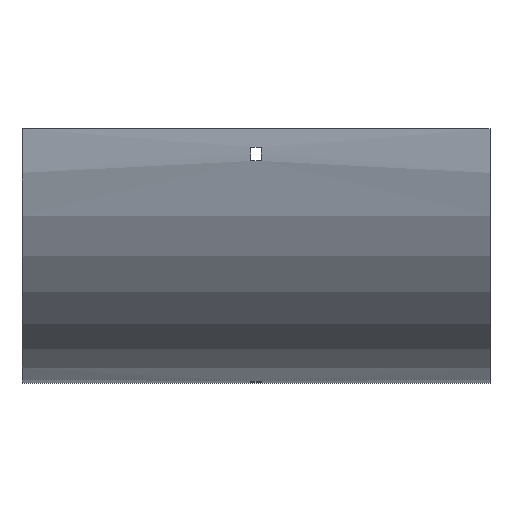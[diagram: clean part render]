
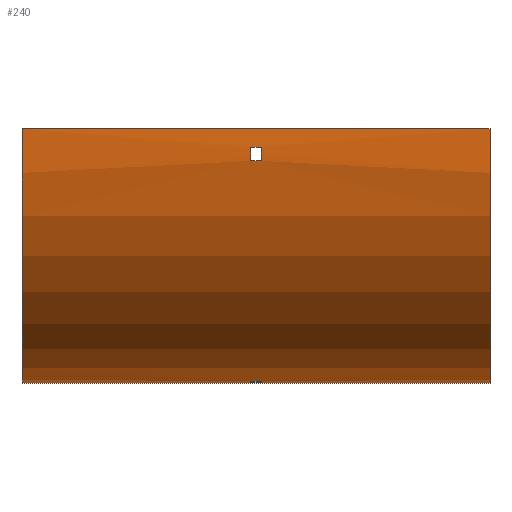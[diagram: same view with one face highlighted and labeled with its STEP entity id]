
A CAD part, front view. The second image highlights one B-rep face of the part: STEP entity #240.
In plain terms, the highlighted cylindrical face has radius 165.5 mm (diameter 331 mm), a partial arc.
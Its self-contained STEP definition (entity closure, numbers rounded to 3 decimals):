
#6 = VECTOR ( 'NONE', #224, 1000. ) ;
#32 = VECTOR ( 'NONE', #101, 1000. ) ;
#36 = DIRECTION ( 'NONE',  ( 0., 0., 1. ) ) ;
#38 = EDGE_CURVE ( 'NONE', #549, #705, #602, .T. ) ;
#44 = VERTEX_POINT ( 'NONE', #590 ) ;
#62 = DIRECTION ( 'NONE',  ( 1., 0., 0. ) ) ;
#67 = EDGE_CURVE ( 'NONE', #705, #956, #1143, .T. ) ;
#69 = ORIENTED_EDGE ( 'NONE', *, *, #83, .T. ) ;
#83 = EDGE_CURVE ( 'NONE', #956, #1008, #518, .T. ) ;
#91 = DIRECTION ( 'NONE',  ( 0., 0., -1. ) ) ;
#101 = DIRECTION ( 'NONE',  ( -1., 0., 0. ) ) ;
#105 = LINE ( 'NONE', #627, #233 ) ;
#109 = CYLINDRICAL_SURFACE ( 'NONE', #523, 165.5 ) ;
#110 = ORIENTED_EDGE ( 'NONE', *, *, #1065, .F. ) ;
#113 = EDGE_CURVE ( 'NONE', #734, #535, #1148, .T. ) ;
#130 = DIRECTION ( 'NONE',  ( -1., 0., 0. ) ) ;
#148 = CARTESIAN_POINT ( 'NONE',  ( -152., 100., 0. ) ) ;
#182 = DIRECTION ( 'NONE',  ( 0., 0., 1. ) ) ;
#185 = VERTEX_POINT ( 'NONE', #747 ) ;
#187 = VERTEX_POINT ( 'NONE', #1086 ) ;
#194 = VERTEX_POINT ( 'NONE', #1006 ) ;
#199 = CARTESIAN_POINT ( 'NONE',  ( 152., -64.162, -21. ) ) ;
#224 = DIRECTION ( 'NONE',  ( -1., 0., 0. ) ) ;
#228 = ORIENTED_EDGE ( 'NONE', *, *, #585, .F. ) ;
#232 = AXIS2_PLACEMENT_3D ( 'NONE', #923, #1010, #453 ) ;
#233 = VECTOR ( 'NONE', #291, 1000. ) ;
#240 = ADVANCED_FACE ( 'NONE', ( #473, #645, #1112 ), #109, .T. ) ;
#242 = DIRECTION ( 'NONE',  ( -1., 0., 0. ) ) ;
#247 = CIRCLE ( 'NONE', #1145, 165.5 ) ;
#251 = CARTESIAN_POINT ( 'NONE',  ( 152., -65.064, -12. ) ) ;
#277 = ORIENTED_EDGE ( 'NONE', *, *, #711, .F. ) ;
#285 = CARTESIAN_POINT ( 'NONE',  ( 152., -65.5, 0. ) ) ;
#291 = DIRECTION ( 'NONE',  ( -1., 0., 0. ) ) ;
#309 = DIRECTION ( 'NONE',  ( -1., 0., 0. ) ) ;
#326 = DIRECTION ( 'NONE',  ( 1., 0., 0. ) ) ;
#328 = EDGE_CURVE ( 'NONE', #1008, #549, #247, .T. ) ;
#370 = DIRECTION ( 'NONE',  ( 1., 0., 0. ) ) ;
#371 = ORIENTED_EDGE ( 'NONE', *, *, #425, .T. ) ;
#380 = ORIENTED_EDGE ( 'NONE', *, *, #1150, .F. ) ;
#400 = CIRCLE ( 'NONE', #507, 165.5 ) ;
#425 = EDGE_CURVE ( 'NONE', #535, #573, #898, .T. ) ;
#453 = DIRECTION ( 'NONE',  ( 0., 1., 0. ) ) ;
#471 = EDGE_LOOP ( 'NONE', ( #277, #110, #497, #380 ) ) ;
#473 = FACE_OUTER_BOUND ( 'NONE', #1081, .T. ) ;
#484 = EDGE_LOOP ( 'NONE', ( #690, #612, #69, #608 ) ) ;
#490 = VECTOR ( 'NONE', #242, 1000. ) ;
#495 = EDGE_CURVE ( 'NONE', #185, #814, #400, .T. ) ;
#497 = ORIENTED_EDGE ( 'NONE', *, *, #495, .F. ) ;
#507 = AXIS2_PLACEMENT_3D ( 'NONE', #620, #1144, #182 ) ;
#518 = LINE ( 'NONE', #251, #894 ) ;
#522 = CARTESIAN_POINT ( 'NONE',  ( -152., -65.5, 0. ) ) ;
#523 = AXIS2_PLACEMENT_3D ( 'NONE', #828, #130, #36 ) ;
#535 = VERTEX_POINT ( 'NONE', #522 ) ;
#549 = VERTEX_POINT ( 'NONE', #1059 ) ;
#554 = CARTESIAN_POINT ( 'NONE',  ( 3.25, -65.064, -12. ) ) ;
#555 = ORIENTED_EDGE ( 'NONE', *, *, #975, .F. ) ;
#562 = CARTESIAN_POINT ( 'NONE',  ( 152., 100., -165.5 ) ) ;
#567 = CIRCLE ( 'NONE', #232, 165.5 ) ;
#573 = VERTEX_POINT ( 'NONE', #806 ) ;
#580 = CARTESIAN_POINT ( 'NONE',  ( 3.25, 79., -164.162 ) ) ;
#585 = EDGE_CURVE ( 'NONE', #194, #573, #718, .T. ) ;
#590 = CARTESIAN_POINT ( 'NONE',  ( -3.25, 88., -165.064 ) ) ;
#591 = AXIS2_PLACEMENT_3D ( 'NONE', #1007, #370, #91 ) ;
#602 = LINE ( 'NONE', #199, #6 ) ;
#608 = ORIENTED_EDGE ( 'NONE', *, *, #328, .T. ) ;
#612 = ORIENTED_EDGE ( 'NONE', *, *, #67, .T. ) ;
#613 = CARTESIAN_POINT ( 'NONE',  ( -3.25, -65.064, -12. ) ) ;
#620 = CARTESIAN_POINT ( 'NONE',  ( 3.25, 100., 0. ) ) ;
#627 = CARTESIAN_POINT ( 'NONE',  ( 152., 79., -164.162 ) ) ;
#633 = AXIS2_PLACEMENT_3D ( 'NONE', #1111, #309, #1055 ) ;
#645 = FACE_BOUND ( 'NONE', #484, .T. ) ;
#655 = CARTESIAN_POINT ( 'NONE',  ( -3.25, -64.162, -21. ) ) ;
#669 = DIRECTION ( 'NONE',  ( 1., 0., 0. ) ) ;
#674 = AXIS2_PLACEMENT_3D ( 'NONE', #148, #62, #931 ) ;
#681 = VECTOR ( 'NONE', #669, 1000. ) ;
#690 = ORIENTED_EDGE ( 'NONE', *, *, #38, .T. ) ;
#705 = VERTEX_POINT ( 'NONE', #655 ) ;
#711 = EDGE_CURVE ( 'NONE', #187, #44, #567, .T. ) ;
#718 = LINE ( 'NONE', #562, #32 ) ;
#734 = VERTEX_POINT ( 'NONE', #285 ) ;
#747 = CARTESIAN_POINT ( 'NONE',  ( 3.25, 88., -165.064 ) ) ;
#751 = LINE ( 'NONE', #843, #681 ) ;
#790 = DIRECTION ( 'NONE',  ( 1., 0., 0. ) ) ;
#806 = CARTESIAN_POINT ( 'NONE',  ( -152., 100., -165.5 ) ) ;
#814 = VERTEX_POINT ( 'NONE', #580 ) ;
#828 = CARTESIAN_POINT ( 'NONE',  ( 152., 100., 0. ) ) ;
#843 = CARTESIAN_POINT ( 'NONE',  ( 152., 88., -165.064 ) ) ;
#884 = CIRCLE ( 'NONE', #591, 165.5 ) ;
#894 = VECTOR ( 'NONE', #790, 1000. ) ;
#898 = CIRCLE ( 'NONE', #674, 165.5 ) ;
#923 = CARTESIAN_POINT ( 'NONE',  ( -3.25, 100., 0. ) ) ;
#931 = DIRECTION ( 'NONE',  ( 0., 0., -1. ) ) ;
#939 = CARTESIAN_POINT ( 'NONE',  ( 3.25, 100., 0. ) ) ;
#956 = VERTEX_POINT ( 'NONE', #613 ) ;
#975 = EDGE_CURVE ( 'NONE', #734, #194, #884, .T. ) ;
#999 = ORIENTED_EDGE ( 'NONE', *, *, #113, .T. ) ;
#1006 = CARTESIAN_POINT ( 'NONE',  ( 152., 100., -165.5 ) ) ;
#1007 = CARTESIAN_POINT ( 'NONE',  ( 152., 100., 0. ) ) ;
#1008 = VERTEX_POINT ( 'NONE', #554 ) ;
#1010 = DIRECTION ( 'NONE',  ( 1., 0., 0. ) ) ;
#1044 = CARTESIAN_POINT ( 'NONE',  ( 152., -65.5, 0. ) ) ;
#1055 = DIRECTION ( 'NONE',  ( 0., 0., 1. ) ) ;
#1059 = CARTESIAN_POINT ( 'NONE',  ( 3.25, -64.162, -21. ) ) ;
#1065 = EDGE_CURVE ( 'NONE', #814, #187, #105, .T. ) ;
#1081 = EDGE_LOOP ( 'NONE', ( #371, #228, #555, #999 ) ) ;
#1086 = CARTESIAN_POINT ( 'NONE',  ( -3.25, 79., -164.162 ) ) ;
#1111 = CARTESIAN_POINT ( 'NONE',  ( -3.25, 100., 0. ) ) ;
#1112 = FACE_BOUND ( 'NONE', #471, .T. ) ;
#1137 = DIRECTION ( 'NONE',  ( 0., 0., -1. ) ) ;
#1143 = CIRCLE ( 'NONE', #633, 165.5 ) ;
#1144 = DIRECTION ( 'NONE',  ( -1., 0., 0. ) ) ;
#1145 = AXIS2_PLACEMENT_3D ( 'NONE', #939, #326, #1137 ) ;
#1148 = LINE ( 'NONE', #1044, #490 ) ;
#1150 = EDGE_CURVE ( 'NONE', #44, #185, #751, .T. ) ;
